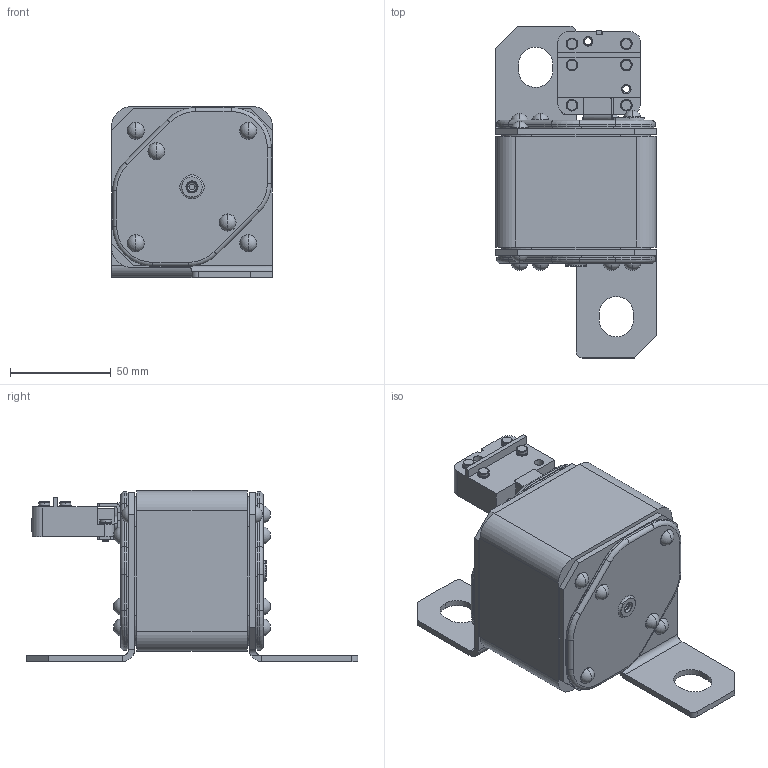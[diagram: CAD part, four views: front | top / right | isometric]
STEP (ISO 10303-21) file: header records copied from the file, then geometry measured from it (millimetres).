
FILE_DESCRIPTION (( 'STEP AP214' ), '1' );
FILE_NAME ('砎槼隰譇膻蠈錪 珫57-39371-XXXA-XXXX-忡曖.STEP', '2023-05-11T12:29:27', ( '' ), ( '' ), 'SwSTEP 2.0', 'SolidWorks 2018', '' );
FILE_SCHEMA (( 'AUTOMOTIVE_DESIGN' ));
Length unit declared in the file: millimetre
Products named in the file (1): 砎槼隰譇膻蠈錪 珫57-39371-XXXA-XXXX-忡曖
Bounding box: 80 x 165 x 85 mm (x, y, z)
Volume: 456312.6 mm3; surface area: 69123.2 mm2
Topology: 1 solids, 25 shells, 868 faces, 2088 edges, 1291 vertices
Faces by surface type: plane 366, cylinder 344, torus 90, cone 44, sphere 24
Entity records: 25884 total; most frequent: CARTESIAN_POINT 5020, DIRECTION 4709, ORIENTED_EDGE 4104, EDGE_CURVE 2052, AXIS2_PLACEMENT_3D 1844, VERTEX_POINT 1279, LINE 1021, VECTOR 1021
